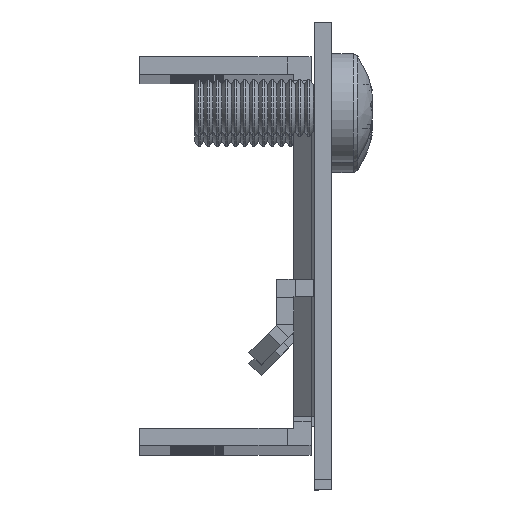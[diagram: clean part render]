
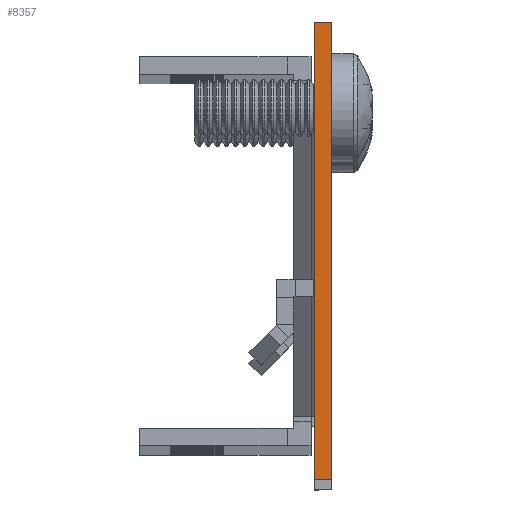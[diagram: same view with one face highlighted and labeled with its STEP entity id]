
A CAD part, top view. The second image highlights one B-rep face of the part: STEP entity #8357.
In plain terms, the highlighted planar face has unit normal (0, 0, 1) as drawn and (-1, 0, 0) by its records, which use the part's own axes.
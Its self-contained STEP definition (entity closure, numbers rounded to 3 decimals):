
#6572 = VERTEX_POINT('',#6573);
#6573 = CARTESIAN_POINT('',(-275.022,20.,1.802));
#6579 = EDGE_CURVE('',#6580,#6572,#6582,.T.);
#6580 = VERTEX_POINT('',#6581);
#6581 = CARTESIAN_POINT('',(-275.022,-20.,1.802));
#6582 = LINE('',#6583,#6584);
#6583 = CARTESIAN_POINT('',(-275.022,14.5,1.802));
#6584 = VECTOR('',#6585,1.);
#6585 = DIRECTION('',(-0.,1.,0.));
#6681 = EDGE_CURVE('',#6682,#6684,#6686,.T.);
#6682 = VERTEX_POINT('',#6683);
#6683 = CARTESIAN_POINT('',(-275.022,-20.,0.302));
#6684 = VERTEX_POINT('',#6685);
#6685 = CARTESIAN_POINT('',(-275.022,20.,0.302));
#6686 = LINE('',#6687,#6688);
#6687 = CARTESIAN_POINT('',(-275.022,0.,
    0.302));
#6688 = VECTOR('',#6689,1.);
#6689 = DIRECTION('',(0.,1.,0.));
#8357 = ADVANCED_FACE('',(#8358),#8374,.T.);
#8358 = FACE_BOUND('',#8359,.T.);
#8359 = EDGE_LOOP('',(#8360,#8361,#8367,#8368));
#8360 = ORIENTED_EDGE('',*,*,#6681,.F.);
#8361 = ORIENTED_EDGE('',*,*,#8362,.T.);
#8362 = EDGE_CURVE('',#6682,#6580,#8363,.T.);
#8363 = LINE('',#8364,#8365);
#8364 = CARTESIAN_POINT('',(-275.022,-20.,0.302));
#8365 = VECTOR('',#8366,1.);
#8366 = DIRECTION('',(0.,0.,1.));
#8367 = ORIENTED_EDGE('',*,*,#6579,.T.);
#8368 = ORIENTED_EDGE('',*,*,#8369,.F.);
#8369 = EDGE_CURVE('',#6684,#6572,#8370,.T.);
#8370 = LINE('',#8371,#8372);
#8371 = CARTESIAN_POINT('',(-275.022,20.,0.302));
#8372 = VECTOR('',#8373,1.);
#8373 = DIRECTION('',(0.,0.,1.));
#8374 = PLANE('',#8375);
#8375 = AXIS2_PLACEMENT_3D('',#8376,#8377,#8378);
#8376 = CARTESIAN_POINT('',(-275.022,14.5,1.802));
#8377 = DIRECTION('',(-1.,0.,0.));
#8378 = DIRECTION('',(0.,0.,1.));
